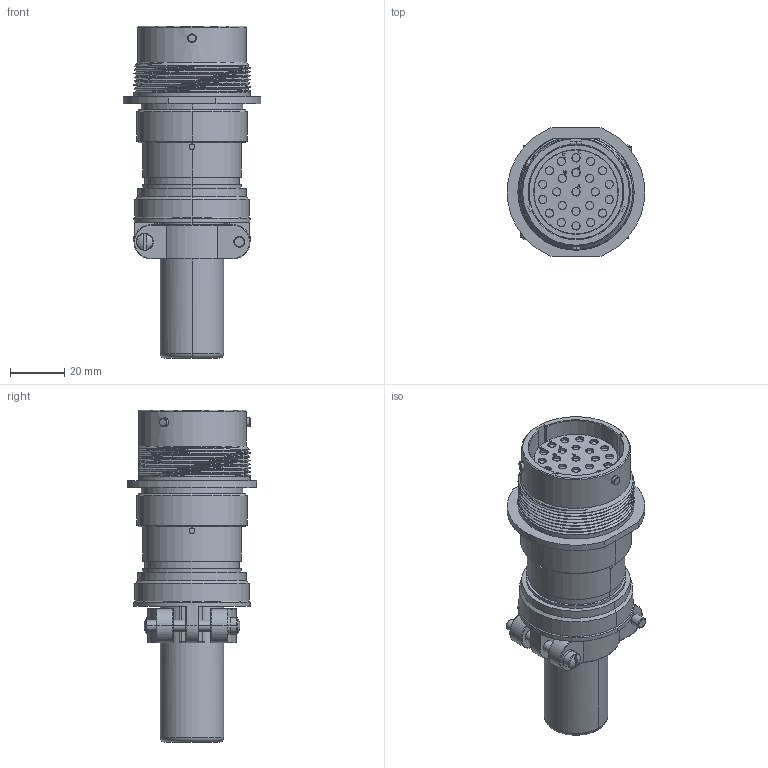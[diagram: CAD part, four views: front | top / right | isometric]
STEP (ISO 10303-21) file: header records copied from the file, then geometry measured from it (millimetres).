
FILE_DESCRIPTION((''),'2;1');
FILE_NAME('C-HD34-24-23SE-059','2013-03-19T',('workeradm'),('Tyco Electronics Ltd.'),'PRO/ENGINEER BY PARAMETRIC TECHNOLOGY CORPORATION, 2010430','PRO/ENGINEER BY PARAMETRIC TECHNOLOGY CORPORATION, 2010430','');
FILE_SCHEMA(('AUTOMOTIVE_DESIGN { 1 0 10303 214 1 1 1 1 }'));
Length unit declared in the file: millimetre
Products named in the file (1): C-HD34-24-23SE-059
Bounding box: 50.8 x 47.62 x 122.48 mm (x, y, z)
Volume: 113946.8 mm3; surface area: 25725.2 mm2
Topology: 1 solids, 1 shells, 661 faces, 1552 edges, 948 vertices
Faces by surface type: cylinder 267, plane 222, cone 71, bspline 42, torus 39, sphere 20
Entity records: 24946 total; most frequent: CARTESIAN_POINT 9540, DIRECTION 3200, ORIENTED_EDGE 3102, EDGE_CURVE 1551, AXIS2_PLACEMENT_3D 1184, VERTEX_POINT 948, VECTOR 832, LINE 832
